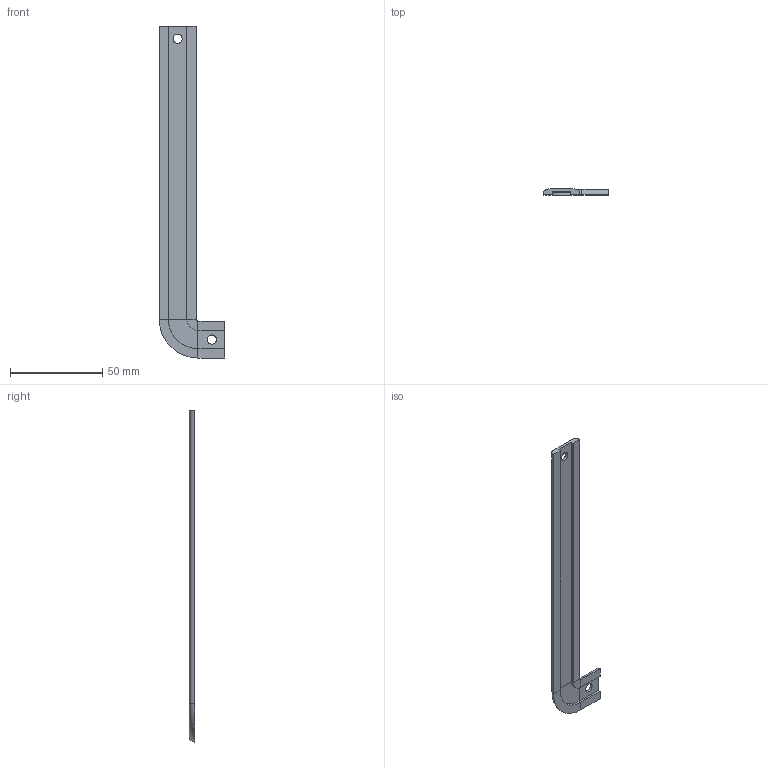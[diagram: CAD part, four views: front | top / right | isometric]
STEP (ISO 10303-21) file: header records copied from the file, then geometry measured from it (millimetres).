
FILE_DESCRIPTION (( 'STEP AP203' ), '1' );
FILE_NAME ('Ñîåäèíèòåëü ìîäåëü N4.STEP', '2025-08-23T18:24:13', ( '' ), ( '' ), 'SwSTEP 2.0', 'SolidWorks 2024', '' );
FILE_SCHEMA (( 'CONFIG_CONTROL_DESIGN' ));
Length unit declared in the file: millimetre
Products named in the file (1): Соединитель модель N4
Bounding box: 35.6 x 3 x 180 mm (x, y, z)
Volume: 7793.3 mm3; surface area: 8912.4 mm2
Topology: 1 solids, 1 shells, 36 faces, 82 edges, 48 vertices
Faces by surface type: plane 24, cylinder 10, torus 2
Entity records: 1077 total; most frequent: DIRECTION 182, CARTESIAN_POINT 167, ORIENTED_EDGE 164, EDGE_CURVE 82, AXIS2_PLACEMENT_3D 63, LINE 56, VECTOR 56, VERTEX_POINT 48
